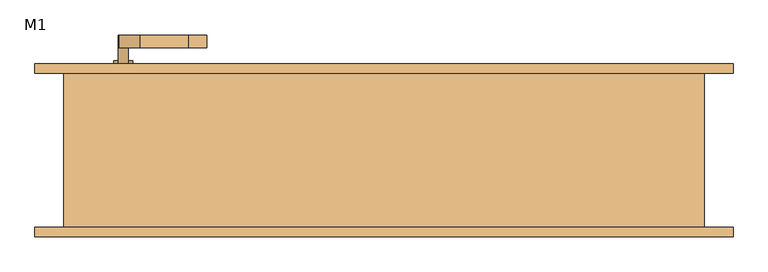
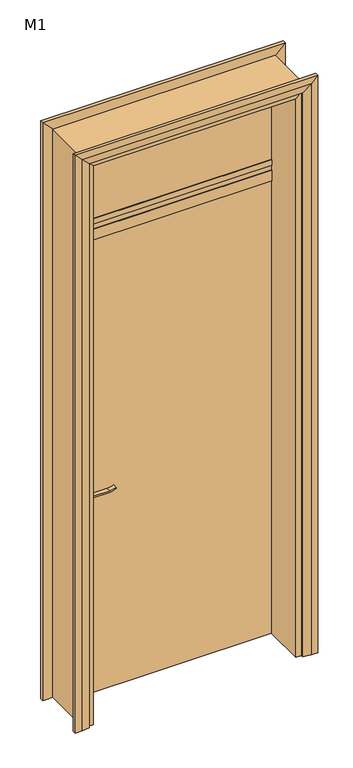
"""IFC4 building model written with IfcOpenShell, lengths in millimetres: door geometry, 单嵌板木门 13 : M1."""

from ifc_helpers import new_model, si_unit, point, frame, frame_2d, origin, origin_with_axes, place, context, project, spatial, polyline, circle_curve, trimmed, segment, composite_curve, outline, extrude, faceted_brep, source, transform, mapped, element, save


def m1_645588ba(model_context):
    return source(origin(), model_context, "Body", "SolidModel", [
        extrude(outline(composite_curve([segment(trimmed(circle_curve(frame_2d((900.0, -407.0)), 15.0), [point((900.0, -392.0))], [point((900.0, -422.0))], False, "CARTESIAN"), True, "CONTINUOUS"), segment(trimmed(circle_curve(frame_2d((900.0, -407.0)), 15.0), [point((900.0, -422.0))], [point((900.0, -392.0))], False, "CARTESIAN"), True, "CONTINUOUS")], self_intersect=False)), frame((0.0, 130.0, 0.0), z_axis=(0.0, 1.0, 0.0), x_axis=(0.0, 0.0, 1.0)), (0.0, 0.0, 1.0), 10.0),
        extrude(outline(composite_curve([segment(trimmed(circle_curve(frame_2d((900.0, -407.0)), 15.0), [point((900.0, -392.0))], [point((900.0, -422.0))], False, "CARTESIAN"), True, "CONTINUOUS"), segment(trimmed(circle_curve(frame_2d((900.0, -407.0)), 15.0), [point((900.0, -422.0))], [point((900.0, -392.0))], False, "CARTESIAN"), True, "CONTINUOUS")], self_intersect=False)), frame((0.0, 50.0, 0.0), z_axis=(0.0, 1.0, 0.0), x_axis=(0.0, 0.0, 1.0)), (0.0, 0.0, 1.0), 10.0),
        extrude(outline(composite_curve([segment(trimmed(circle_curve(frame_2d((960.0, -407.0)), 8.0), [point((964.6523287, -413.5081363))], [point((960.0, -399.0))], False, "CARTESIAN"), True, "CONTINUOUS"), segment(trimmed(circle_curve(frame_2d((954.8738613, -381.6138099)), 18.1261387), [point((960.0, -399.0))], [point((973.0, -381.6138099))], True, "CARTESIAN"), True, "CONTINUOUS"), segment(polyline([(973.0, -381.6138099), (973.0, -305.3564091)]), True, "CONTINUOUS"), segment(trimmed(circle_curve(frame_2d((1032.2709207, -308.9396612)), 59.3791355), [point((973.0, -305.3564091))], [point((982.2135558, -277.0))], False, "CARTESIAN"), True, "CONTINUOUS"), segment(polyline([(982.2135558, -277.0), (985.0, -277.0)]), True, "CONTINUOUS"), segment(trimmed(circle_curve(frame_2d((1063.2850638, -305.4227909)), 83.2850902), [point((985.0, -277.0))], [point((980.0, -305.3564091))], True, "CARTESIAN"), True, "CONTINUOUS"), segment(polyline([(980.0, -305.3564091), (980.0, -381.6325667)]), True, "CONTINUOUS"), segment(trimmed(circle_curve(frame_2d((942.7555521, -383.3324871)), 37.2832219), [point((980.0, -381.6325667))], [point((964.6523287, -413.5081363))], False, "CARTESIAN"), True, "CONTINUOUS")], self_intersect=False)), frame((0.0, 160.0, 0.0), z_axis=(0.0, 1.0, 0.0), x_axis=(0.0, 0.0, 1.0)), (0.0, 0.0, 1.0), 20.0),
        extrude(outline(composite_curve([segment(trimmed(circle_curve(frame_2d((954.8738682, -381.6138122)), 18.1261318), [point((959.9999903, -399.0))], [point((973.0, -381.6138122))], True, "CARTESIAN"), True, "CONTINUOUS"), segment(polyline([(973.0, -381.6138122), (973.0, -305.3564091)]), True, "CONTINUOUS"), segment(trimmed(circle_curve(frame_2d((1032.2709207, -308.9396612)), 59.3791355), [point((973.0, -305.3564091))], [point((982.2135558, -277.0))], False, "CARTESIAN"), True, "CONTINUOUS"), segment(polyline([(982.2135558, -277.0), (985.0, -277.0)]), True, "CONTINUOUS"), segment(trimmed(circle_curve(frame_2d((1063.2850638, -305.4227909)), 83.2850902), [point((985.0, -277.0))], [point((980.0, -305.3564091))], True, "CARTESIAN"), True, "CONTINUOUS"), segment(polyline([(980.0, -305.3564091), (980.0, -381.6325667)]), True, "CONTINUOUS"), segment(trimmed(circle_curve(frame_2d((942.7555521, -383.3324871)), 37.2832219), [point((980.0, -381.6325667))], [point((964.6523287, -413.5081363))], False, "CARTESIAN"), True, "CONTINUOUS"), segment(trimmed(circle_curve(frame_2d((960.0, -407.0)), 8.0), [point((964.6523287, -413.5081363))], [point((959.9999903, -399.0))], False, "CARTESIAN"), True, "CONTINUOUS")], self_intersect=False)), frame((0.0, 10.0, 0.0), z_axis=(0.0, 1.0, 0.0), x_axis=(0.0, 0.0, 1.0)), (0.0, 0.0, 1.0), 20.0),
        extrude(outline(composite_curve([segment(trimmed(circle_curve(frame_2d((960.0, -407.0)), 8.0), [point((960.0, -399.0))], [point((960.0, -415.0))], False, "CARTESIAN"), True, "CONTINUOUS"), segment(trimmed(circle_curve(frame_2d((960.0, -407.0)), 8.0), [point((960.0, -415.0))], [point((960.0, -399.0))], False, "CARTESIAN"), True, "CONTINUOUS")], self_intersect=False)), frame((0.0, 130.0, 0.0), z_axis=(0.0, 1.0, 0.0), x_axis=(0.0, 0.0, 1.0)), (0.0, 0.0, 1.0), 30.0),
        extrude(outline(composite_curve([segment(trimmed(circle_curve(frame_2d((960.0, -407.0)), 8.0), [point((960.0, -399.0))], [point((960.0, -415.0))], False, "CARTESIAN"), True, "CONTINUOUS"), segment(trimmed(circle_curve(frame_2d((960.0, -407.0)), 8.0), [point((960.0, -415.0))], [point((960.0, -399.0))], False, "CARTESIAN"), True, "CONTINUOUS")], self_intersect=False)), frame((0.0, 30.0, 0.0), z_axis=(0.0, 1.0, 0.0), x_axis=(0.0, 0.0, 1.0)), (0.0, 0.0, 1.0), 30.0),
        extrude(outline(composite_curve([segment(trimmed(circle_curve(frame_2d((890.0, -407.0)), 25.0), [point((890.0, -432.0))], [point((890.0, -382.0))], False, "CARTESIAN"), True, "CONTINUOUS"), segment(polyline([(890.0, -382.0), (960.0, -382.0)]), True, "CONTINUOUS"), segment(trimmed(circle_curve(frame_2d((960.0, -407.0)), 25.0), [point((960.0, -382.0))], [point((960.0, -432.0))], False, "CARTESIAN"), True, "CONTINUOUS"), segment(polyline([(960.0, -432.0), (890.0, -432.0)]), True, "CONTINUOUS")], self_intersect=False)), frame((0.0, 120.0, 0.0), z_axis=(0.0, 1.0, 0.0), x_axis=(0.0, 0.0, 1.0)), (0.0, 0.0, 1.0), 10.0),
        extrude(outline(composite_curve([segment(trimmed(circle_curve(frame_2d((890.0, -407.0)), 25.0), [point((890.0, -432.0))], [point((890.0, -382.0))], False, "CARTESIAN"), True, "CONTINUOUS"), segment(polyline([(890.0, -382.0), (960.0, -382.0)]), True, "CONTINUOUS"), segment(trimmed(circle_curve(frame_2d((960.0, -407.0)), 25.0), [point((960.0, -382.0))], [point((960.0, -432.0))], False, "CARTESIAN"), True, "CONTINUOUS"), segment(polyline([(960.0, -432.0), (890.0, -432.0)]), True, "CONTINUOUS")], self_intersect=False)), frame((0.0, 60.0, 0.0), z_axis=(0.0, 1.0, 0.0), x_axis=(0.0, 0.0, 1.0)), (0.0, 0.0, 1.0), 10.0),
        extrude(outline(polyline([(-467.0, 123.0), (467.0, 123.0), (467.0, 67.0), (-467.0, 67.0), (-467.0, 123.0)])), frame((0.0, 0.0, 2152.0), z_axis=(0.0, 0.0, 1.0), x_axis=(1.0, 0.0, 0.0)), (0.0, 0.0, 1.0), 50.0),
        extrude(outline(polyline([(-467.0, 123.0), (467.0, 123.0), (467.0, 67.0), (-467.0, 67.0), (-467.0, 123.0)])), frame((0.0, 0.0, 2227.0), z_axis=(0.0, 0.0, 1.0), x_axis=(1.0, 0.0, 0.0)), (0.0, 0.0, 1.0), 25.0),
        faceted_brep([(-470.0, 120.0, 0.0), (-470.0, 67.0, 0.0), (-455.0, 67.0, 0.0), (-455.0, -120.0, 0.0), (-500.0, -120.0, 0.0), (-500.0, 120.0, 0.0), (-470.0, 120.0, 2670.0), (-470.0, 67.0, 2670.0), (-455.0, 67.0, 2655.0), (-455.0, -120.0, 2655.0), (-500.0, -120.0, 2700.0), (-500.0, 120.0, 2700.0), (470.0, 120.0, 2670.0), (470.0, 67.0, 2670.0), (455.0, 67.0, 2655.0), (455.0, -120.0, 2655.0), (500.0, -120.0, 2700.0), (500.0, 120.0, 2700.0), (470.0, 120.0, 0.0), (500.0, 120.0, 0.0), (500.0, -120.0, 0.0), (455.0, -120.0, 0.0), (455.0, 67.0, 0.0), (470.0, 67.0, 0.0)], [[[0, 1, 2, 3, 4, 5]], [[1, 0, 6, 7]], [[2, 1, 7, 8]], [[3, 2, 8, 9]], [[4, 3, 9, 10]], [[5, 4, 10, 11]], [[0, 5, 11, 6]], [[7, 6, 12, 13]], [[8, 7, 13, 14]], [[9, 8, 14, 15]], [[10, 9, 15, 16]], [[11, 10, 16, 17]], [[6, 11, 17, 12]], [[18, 19, 20, 21, 22, 23]], [[13, 12, 18, 23]], [[14, 13, 23, 22]], [[15, 14, 22, 21]], [[16, 15, 21, 20]], [[17, 16, 20, 19]], [[12, 17, 19, 18]]]),
        extrude(outline(polyline([(467.0, 70.0), (-467.0, 70.0), (-467.0, 120.0), (467.0, 120.0), (467.0, 70.0)])), frame((0.0, 0.0, 2252.0), z_axis=(0.0, 0.0, 1.0), x_axis=(1.0, 0.0, 0.0)), (0.0, 0.0, 1.0), 415.0),
        extrude(outline(polyline([(467.0, 70.0), (-467.0, 70.0), (-467.0, 120.0), (467.0, 120.0), (467.0, 70.0)])), origin_with_axes(), (0.0, 0.0, 1.0), 2152.0),
        extrude(outline(polyline([(467.0, 70.0), (-467.0, 70.0), (-467.0, 120.0), (467.0, 120.0), (467.0, 70.0)])), frame((0.0, 0.0, 2202.0), z_axis=(0.0, 0.0, 1.0), x_axis=(1.0, 0.0, 0.0)), (0.0, 0.0, 1.0), 25.0),
        faceted_brep([(-545.0, 120.0, 0.0), (-545.0, 135.0, 0.0), (-515.0, 135.0, 0.0), (-480.0, 130.0, 0.0), (-480.0, 120.0, 0.0), (-545.0, 120.0, 2745.0), (-545.0, 135.0, 2745.0), (-515.0, 135.0, 2715.0), (-480.0, 130.0, 2680.0), (-480.0, 120.0, 2680.0), (545.0, 120.0, 2745.0), (545.0, 135.0, 2745.0), (515.0, 135.0, 2715.0), (480.0, 130.0, 2680.0), (480.0, 120.0, 2680.0), (545.0, 120.0, 0.0), (480.0, 120.0, 0.0), (480.0, 130.0, 0.0), (515.0, 135.0, 0.0), (545.0, 135.0, 0.0)], [[[0, 1, 2, 3, 4]], [[1, 0, 5, 6]], [[2, 1, 6, 7]], [[3, 2, 7, 8]], [[4, 3, 8, 9]], [[0, 4, 9, 5]], [[6, 5, 10, 11]], [[7, 6, 11, 12]], [[8, 7, 12, 13]], [[9, 8, 13, 14]], [[5, 9, 14, 10]], [[15, 16, 17, 18, 19]], [[11, 10, 15, 19]], [[12, 11, 19, 18]], [[13, 12, 18, 17]], [[14, 13, 17, 16]], [[10, 14, 16, 15]]]),
        faceted_brep([(-480.0, -130.0, 0.0), (-515.0, -135.0, 0.0), (-545.0, -135.0, 0.0), (-545.0, -120.0, 0.0), (-480.0, -120.0, 0.0), (-480.0, -130.0, 2680.0), (-515.0, -135.0, 2715.0), (-545.0, -135.0, 2745.0), (-545.0, -120.0, 2745.0), (-480.0, -120.0, 2680.0), (480.0, -130.0, 2680.0), (515.0, -135.0, 2715.0), (545.0, -135.0, 2745.0), (545.0, -120.0, 2745.0), (480.0, -120.0, 2680.0), (480.0, -130.0, 0.0), (480.0, -120.0, 0.0), (545.0, -120.0, 0.0), (545.0, -135.0, 0.0), (515.0, -135.0, 0.0)], [[[0, 1, 2, 3, 4]], [[1, 0, 5, 6]], [[2, 1, 6, 7]], [[3, 2, 7, 8]], [[4, 3, 8, 9]], [[0, 4, 9, 5]], [[6, 5, 10, 11]], [[7, 6, 11, 12]], [[8, 7, 12, 13]], [[9, 8, 13, 14]], [[5, 9, 14, 10]], [[15, 16, 17, 18, 19]], [[11, 10, 15, 19]], [[12, 11, 19, 18]], [[13, 12, 18, 17]], [[14, 13, 17, 16]], [[10, 14, 16, 15]]]),
    ])


if __name__ == "__main__":
    model = new_model("IFC4")
    model_context = context("Model", 3, world=origin())
    ifc_project = project(units=[si_unit("LENGTHUNIT", "METRE", prefix="MILLI")], contexts=[model_context])
    site = spatial("IfcSite", under=ifc_project)
    building = spatial("IfcBuilding", under=site)
    placement = place(None, origin())
    m1_shape = m1_645588ba(model_context)
    element("IfcDoor", 1, ObjectType="单嵌板木门 13 : M1", at=placement, inside=building, context=model_context, shape_type="MappedRepresentation", body=[
        mapped(m1_shape, transform((0.0, 0.0, 0.0), x_axis=(1.0, 0.0, 0.0), y_axis=(0.0, 1.0, 0.0), z_axis=(0.0, 0.0, 1.0))),
    ])
    save(model, "model.ifc")
